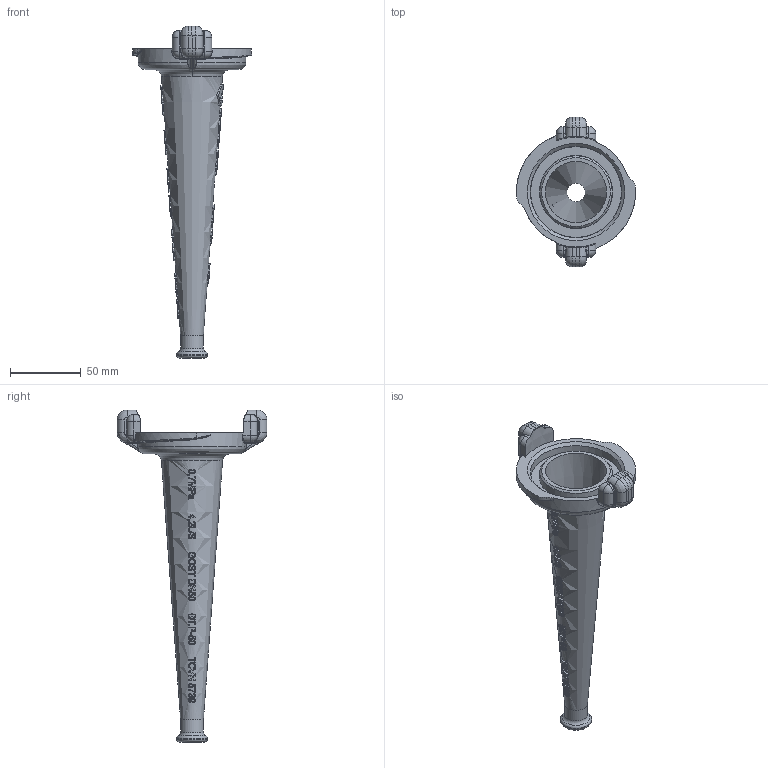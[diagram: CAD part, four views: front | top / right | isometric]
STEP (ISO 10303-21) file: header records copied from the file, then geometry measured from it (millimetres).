
FILE_DESCRIPTION(('STEP AP203'),'1');
FILE_NAME('Lang D50.stp','2025-07-15T11:59:00',(' '),(' '),'Spatial InterOp 3D',' ',' ');
FILE_SCHEMA(('CONFIG_CONTROL_DESIGN'));
Length unit declared in the file: millimetre
Products named in the file (1): Lang D50
Bounding box: 83.98 x 105.6 x 234 mm (x, y, z)
Volume: 78731.7 mm3; surface area: 53861.2 mm2
Topology: 1 solids, 1 shells, 977 faces, 2576 edges, 1654 vertices
Faces by surface type: plane 354, extrusion 346, bspline 90, cylinder 87, cone 79, sphere 18, torus 3
Full cylindrical faces by diameter (mm): 13 x1, 16.1 x1, 22 x1
Entity records: 45329 total; most frequent: CARTESIAN_POINT 23390, ORIENTED_EDGE 5076, DIRECTION 3435, EDGE_CURVE 2538, VERTEX_POINT 1649, B_SPLINE_CURVE_WITH_KNOTS 1479, VECTOR 1151, AXIS2_PLACEMENT_3D 1142
